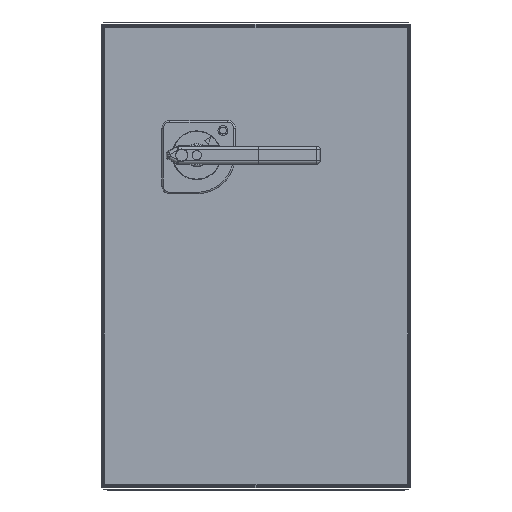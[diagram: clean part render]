
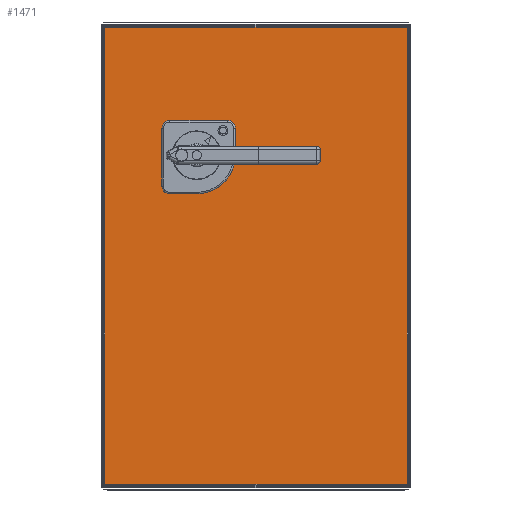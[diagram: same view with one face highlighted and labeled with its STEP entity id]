
A CAD part, top view. The second image highlights one B-rep face of the part: STEP entity #1471.
In plain terms, the highlighted planar face has unit normal (0, 0, 1).
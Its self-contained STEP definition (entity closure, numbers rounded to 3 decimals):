
#232=PLANE('',#3149);
#291=FACE_OUTER_BOUND('',#1656,.T.);
#473=LINE('',#4284,#678);
#478=LINE('',#4299,#683);
#483=LINE('',#4312,#688);
#488=LINE('',#4325,#693);
#678=VECTOR('',#3555,1.);
#683=VECTOR('',#3568,1.);
#688=VECTOR('',#3581,1.);
#693=VECTOR('',#3594,1.);
#1471=ADVANCED_FACE('',(#291),#232,.T.);
#1656=EDGE_LOOP('',(#1935,#1936,#1937,#1938));
#1935=ORIENTED_EDGE('',*,*,#2748,.T.);
#1936=ORIENTED_EDGE('',*,*,#2727,.F.);
#1937=ORIENTED_EDGE('',*,*,#2741,.T.);
#1938=ORIENTED_EDGE('',*,*,#2734,.F.);
#2419=VERTEX_POINT('',#4278);
#2422=VERTEX_POINT('',#4283);
#2427=VERTEX_POINT('',#4296);
#2428=VERTEX_POINT('',#4298);
#2727=EDGE_CURVE('',#2422,#2419,#473,.T.);
#2734=EDGE_CURVE('',#2428,#2427,#478,.T.);
#2741=EDGE_CURVE('',#2422,#2427,#483,.T.);
#2748=EDGE_CURVE('',#2428,#2419,#488,.T.);
#3149=AXIS2_PLACEMENT_3D('',#4333,#3602,#3603);
#3555=DIRECTION('',(-1.,0.,0.));
#3568=DIRECTION('',(1.,0.,0.));
#3581=DIRECTION('',(0.,1.,0.));
#3594=DIRECTION('',(0.,-1.,0.));
#3602=DIRECTION('',(0.,0.,1.));
#3603=DIRECTION('',(0.,1.,0.));
#4278=CARTESIAN_POINT('',(-196.,-21.,186.8));
#4283=CARTESIAN_POINT('',(196.,-21.,186.8));
#4284=CARTESIAN_POINT('',(196.,-21.,186.8));
#4296=CARTESIAN_POINT('',(196.,571.,186.8));
#4298=CARTESIAN_POINT('',(-196.,571.,186.8));
#4299=CARTESIAN_POINT('',(-196.,571.,186.8));
#4312=CARTESIAN_POINT('',(196.,-21.,186.8));
#4325=CARTESIAN_POINT('',(-196.,571.,186.8));
#4333=CARTESIAN_POINT('',(-215.6,600.6,186.8));
